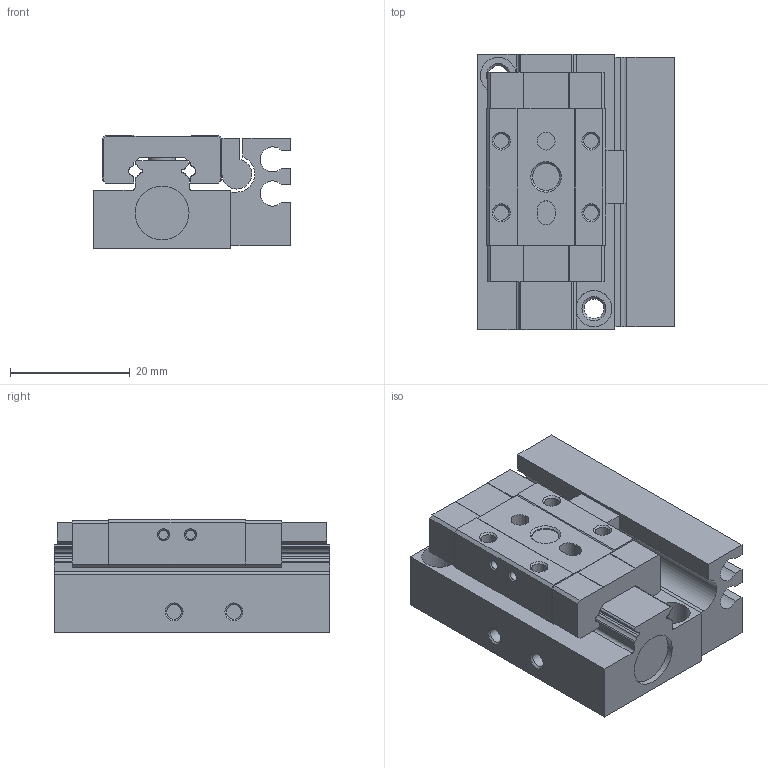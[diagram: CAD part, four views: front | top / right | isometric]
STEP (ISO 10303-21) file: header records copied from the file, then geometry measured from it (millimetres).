
FILE_DESCRIPTION(/* description */ ('STEP AP214'),/* implementation_level */ '2;1');
FILE_NAME(/* name */ 'HGS8X5S(0)',/* time_stamp */ '2024-09-22T10:32:58+02:00',/* author */ ('License CC BY-ND 4.0'),/* organization */ ('CADENAS'),/* preprocessor_version */ 'ST-DEVELOPER v19.3',/* originating_system */ 'PARTsolutions',/* authorisation */ ' ');
FILE_SCHEMA (('AUTOMOTIVE_DESIGN {1 0 10303 214 3 1 1}'));
Length unit declared in the file: millimetre
Products named in the file (5): HGS8X5S(0); HGS8X5S(0)_dummy; HGS8X5S(0)_body; F-HGS8X5H; HGS8X5S(0)_t
Assembly tree (4 placements, depth 2):
  HGS8X5S(0)
    HGS8X5S(0)_dummy
    HGS8X5S(0)_body
    F-HGS8X5H
    HGS8X5S(0)_t
Bounding box: 33 x 46 x 19 mm (x, y, z)
Volume: 20568.2 mm3; surface area: 12221.9 mm2
Topology: 3 solids, 5 shells, 236 faces, 557 edges, 362 vertices
Faces by surface type: plane 142, cylinder 70, cone 24
Full cylindrical faces by diameter (mm): 1 x2, 1.567 x4, 2.459 x10, 2.5 x2, 2.8 x2, 3 x4, 3.242 x2, 4.134 x2, 4.5 x2, 5.5 x2, 6 x2, 9 x2
Entity records: 6554 total; most frequent: DIRECTION 1140, CARTESIAN_POINT 1090, ORIENTED_EDGE 984, EDGE_CURVE 492, AXIS2_PLACEMENT_3D 407, VERTEX_POINT 356, EDGE_LOOP 336, FACE_BOUND 336
